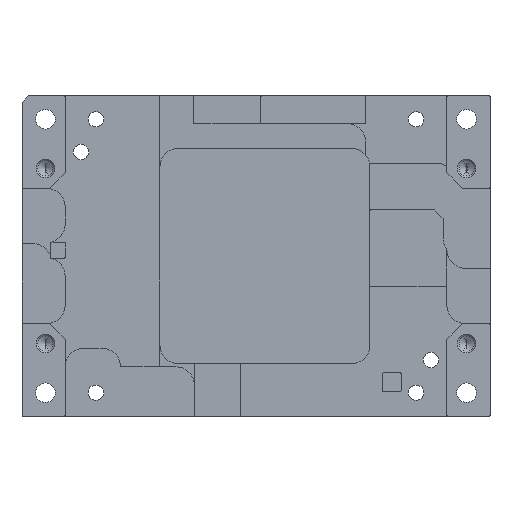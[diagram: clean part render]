
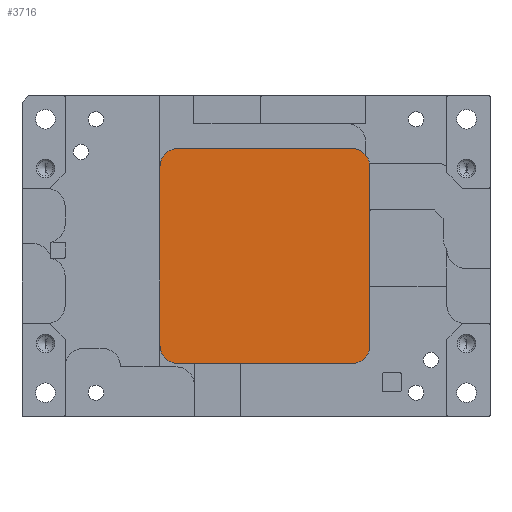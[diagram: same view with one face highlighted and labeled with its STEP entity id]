
A CAD part, left-side view. The second image highlights one B-rep face of the part: STEP entity #3716.
In plain terms, the highlighted planar face has unit normal (-1, 0, 0).
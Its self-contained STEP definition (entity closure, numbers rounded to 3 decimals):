
#127 = LINE ( 'NONE', #4810, #4477 ) ;
#161 = CARTESIAN_POINT ( 'NONE',  ( 3.72, 15.6, 14.5 ) ) ;
#373 = CIRCLE ( 'NONE', #1698, 3. ) ;
#415 = VERTEX_POINT ( 'NONE', #2772 ) ;
#418 = AXIS2_PLACEMENT_3D ( 'NONE', #4290, #5212, #1637 ) ;
#454 = DIRECTION ( 'NONE',  ( 0., 0., -1. ) ) ;
#566 = ORIENTED_EDGE ( 'NONE', *, *, #802, .T. ) ;
#580 = DIRECTION ( 'NONE',  ( 0., 0., 1. ) ) ;
#613 = DIRECTION ( 'NONE',  ( 0., -1., 0. ) ) ;
#698 = ORIENTED_EDGE ( 'NONE', *, *, #1331, .T. ) ;
#802 = EDGE_CURVE ( 'NONE', #2418, #2190, #1456, .T. ) ;
#1032 = CARTESIAN_POINT ( 'NONE',  ( 3.72, 15.6, -17.5 ) ) ;
#1331 = EDGE_CURVE ( 'NONE', #415, #4228, #1908, .T. ) ;
#1422 = DIRECTION ( 'NONE',  ( -1., 0., 0. ) ) ;
#1456 = CIRCLE ( 'NONE', #418, 3. ) ;
#1499 = EDGE_CURVE ( 'NONE', #2439, #3314, #1759, .T. ) ;
#1522 = LINE ( 'NONE', #1032, #3610 ) ;
#1542 = AXIS2_PLACEMENT_3D ( 'NONE', #2386, #2812, #580 ) ;
#1637 = DIRECTION ( 'NONE',  ( 0., 0., 1. ) ) ;
#1698 = AXIS2_PLACEMENT_3D ( 'NONE', #3229, #3214, #3681 ) ;
#1759 = LINE ( 'NONE', #4246, #4660 ) ;
#1851 = CARTESIAN_POINT ( 'NONE',  ( 3.72, 12.6, -17.5 ) ) ;
#1908 = CIRCLE ( 'NONE', #1542, 3. ) ;
#1913 = DIRECTION ( 'NONE',  ( 0., 0., 1. ) ) ;
#1964 = VECTOR ( 'NONE', #4847, 1000. ) ;
#2190 = VERTEX_POINT ( 'NONE', #1851 ) ;
#2252 = EDGE_CURVE ( 'NONE', #5008, #2439, #4717, .T. ) ;
#2386 = CARTESIAN_POINT ( 'NONE',  ( 3.72, -15.5, -14.5 ) ) ;
#2418 = VERTEX_POINT ( 'NONE', #5321 ) ;
#2439 = VERTEX_POINT ( 'NONE', #5440 ) ;
#2460 = CARTESIAN_POINT ( 'NONE',  ( 3.72, 0., 0. ) ) ;
#2501 = DIRECTION ( 'NONE',  ( 0., 0., 1. ) ) ;
#2758 = CARTESIAN_POINT ( 'NONE',  ( 3.72, -15.5, 14.5 ) ) ;
#2772 = CARTESIAN_POINT ( 'NONE',  ( 3.72, -15.5, -17.5 ) ) ;
#2812 = DIRECTION ( 'NONE',  ( -1., 0., 0. ) ) ;
#2822 = EDGE_CURVE ( 'NONE', #3579, #2418, #127, .T. ) ;
#2845 = ORIENTED_EDGE ( 'NONE', *, *, #1499, .T. ) ;
#2918 = FACE_OUTER_BOUND ( 'NONE', #3186, .T. ) ;
#2937 = EDGE_CURVE ( 'NONE', #3314, #3579, #373, .T. ) ;
#2955 = DIRECTION ( 'NONE',  ( -1., 0., 0. ) ) ;
#3186 = EDGE_LOOP ( 'NONE', ( #3928, #698, #3465, #4383, #2845, #4048, #5123, #566 ) ) ;
#3214 = DIRECTION ( 'NONE',  ( -1., 0., 0. ) ) ;
#3229 = CARTESIAN_POINT ( 'NONE',  ( 3.72, 12.6, 14.5 ) ) ;
#3314 = VERTEX_POINT ( 'NONE', #5284 ) ;
#3438 = CARTESIAN_POINT ( 'NONE',  ( 3.72, -18.5, 14.5 ) ) ;
#3465 = ORIENTED_EDGE ( 'NONE', *, *, #4427, .T. ) ;
#3579 = VERTEX_POINT ( 'NONE', #161 ) ;
#3610 = VECTOR ( 'NONE', #613, 1000. ) ;
#3681 = DIRECTION ( 'NONE',  ( 0., 0., 1. ) ) ;
#3716 = ADVANCED_FACE ( 'NONE', ( #2918 ), #5640, .T. ) ;
#3928 = ORIENTED_EDGE ( 'NONE', *, *, #5251, .T. ) ;
#4048 = ORIENTED_EDGE ( 'NONE', *, *, #2937, .T. ) ;
#4228 = VERTEX_POINT ( 'NONE', #5152 ) ;
#4246 = CARTESIAN_POINT ( 'NONE',  ( 3.72, 15.6, 17.5 ) ) ;
#4290 = CARTESIAN_POINT ( 'NONE',  ( 3.72, 12.6, -14.5 ) ) ;
#4383 = ORIENTED_EDGE ( 'NONE', *, *, #2252, .T. ) ;
#4427 = EDGE_CURVE ( 'NONE', #4228, #5008, #5136, .T. ) ;
#4477 = VECTOR ( 'NONE', #454, 1000. ) ;
#4532 = AXIS2_PLACEMENT_3D ( 'NONE', #2460, #2955, #2501 ) ;
#4660 = VECTOR ( 'NONE', #5582, 1000. ) ;
#4717 = CIRCLE ( 'NONE', #5180, 3. ) ;
#4810 = CARTESIAN_POINT ( 'NONE',  ( 3.72, 15.6, -17.5 ) ) ;
#4847 = DIRECTION ( 'NONE',  ( 0., 0., 1. ) ) ;
#5008 = VERTEX_POINT ( 'NONE', #3438 ) ;
#5123 = ORIENTED_EDGE ( 'NONE', *, *, #2822, .T. ) ;
#5136 = LINE ( 'NONE', #5729, #1964 ) ;
#5152 = CARTESIAN_POINT ( 'NONE',  ( 3.72, -18.5, -14.5 ) ) ;
#5180 = AXIS2_PLACEMENT_3D ( 'NONE', #2758, #1422, #1913 ) ;
#5212 = DIRECTION ( 'NONE',  ( -1., 0., 0. ) ) ;
#5251 = EDGE_CURVE ( 'NONE', #2190, #415, #1522, .T. ) ;
#5284 = CARTESIAN_POINT ( 'NONE',  ( 3.72, 12.6, 17.5 ) ) ;
#5321 = CARTESIAN_POINT ( 'NONE',  ( 3.72, 15.6, -14.5 ) ) ;
#5440 = CARTESIAN_POINT ( 'NONE',  ( 3.72, -15.5, 17.5 ) ) ;
#5582 = DIRECTION ( 'NONE',  ( 0., 1., 0. ) ) ;
#5640 = PLANE ( 'NONE',  #4532 ) ;
#5729 = CARTESIAN_POINT ( 'NONE',  ( 3.72, -18.5, -17.5 ) ) ;
